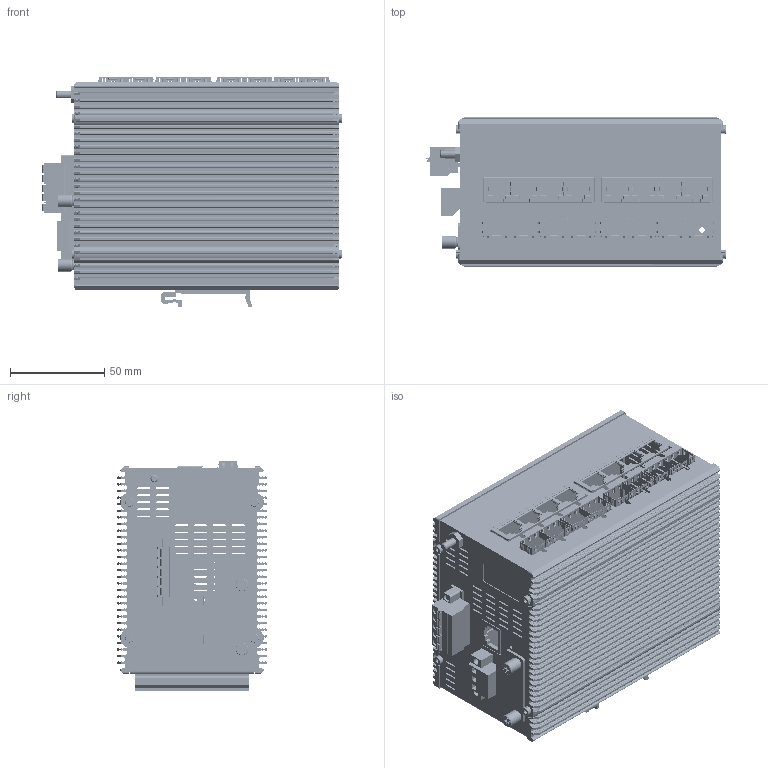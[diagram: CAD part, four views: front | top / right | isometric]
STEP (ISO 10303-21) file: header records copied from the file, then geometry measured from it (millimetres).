
FILE_DESCRIPTION(('TFLEX Exchange Step'),'2;1');
FILE_NAME('STK-EX-05-4100-BH8080.stp', '2025-01-30T10:42:42+03:00',('Yuriy Romanov'),('Unknown organisation'),'TFLEX Exchange 2023.2','T-FLEX CAD','Unknown authorisation');
FILE_SCHEMA( ('AUTOMOTIVE_DESIGN { 1 0 10303 214 1 1 1 1 }') );
Length unit declared in the file: millimetre
Products named in the file (1): STK-EX-05-4100-BH8080
Bounding box: 158.5 x 79 x 122.1 mm (x, y, z)
Volume: 143487.6 mm3; surface area: 242853.3 mm2
Topology: 65 solids, 65 shells, 7854 faces, 22759 edges, 15061 vertices
Faces by surface type: plane 3945, cylinder 3766, cone 119, torus 20, extrusion 2, bspline 2
Full cylindrical faces by diameter (mm): 1 x8, 2 x5, 2.5 x14, 3 x40, 3.48 x4, 3.5 x10, 3.85 x1, 4 x8, 4.3 x4, 4.4 x2, 4.5 x1, 5 x4, 5.247 x2, 5.5 x14, 6.8 x2, 7 x10
Entity records: 265002 total; most frequent: CARTESIAN_POINT 53691, ORIENTED_EDGE 45502, DIRECTION 44034, EDGE_CURVE 22751, AXIS2_PLACEMENT_3D 15844, VERTEX_POINT 15061, VECTOR 12346, LINE 12344
